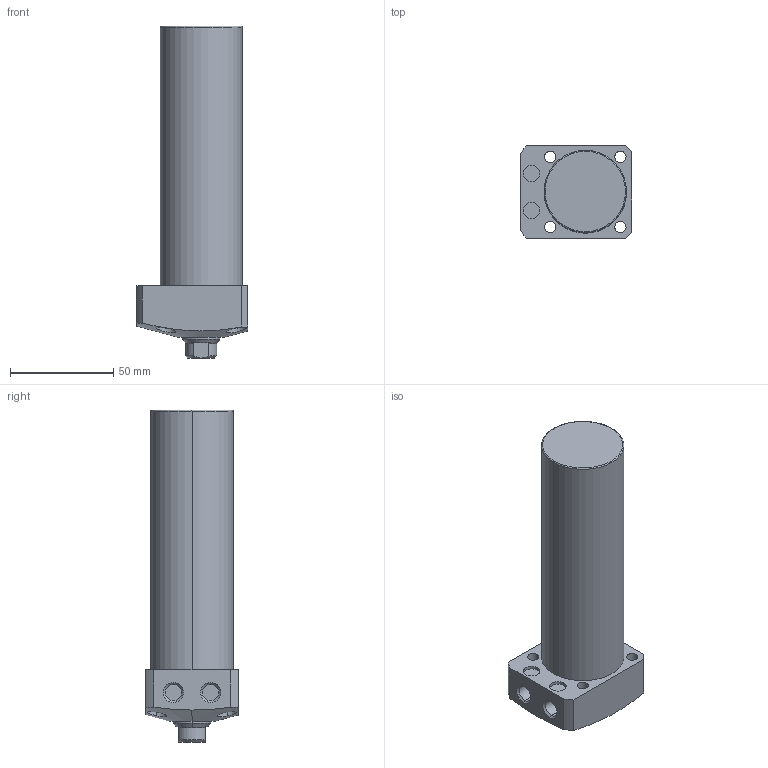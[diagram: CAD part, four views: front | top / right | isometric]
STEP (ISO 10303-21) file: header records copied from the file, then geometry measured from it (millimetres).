
FILE_DESCRIPTION (( 'STEP AP203' ), '1' );
FILE_NAME ('CLL-040CA-100.STEP', '2019-12-21T03:42:18', ( '' ), ( '' ), 'SwSTEP 2.0', 'SolidWorks 2015', '' );
FILE_SCHEMA (( 'CONFIG_CONTROL_DESIGN' ));
Length unit declared in the file: millimetre
Products named in the file (1): CLL-040CA-100
Bounding box: 54 x 45 x 161 mm (x, y, z)
Volume: 208774.6 mm3; surface area: 27935.9 mm2
Topology: 1 solids, 1 shells, 74 faces, 170 edges, 107 vertices
Faces by surface type: cylinder 35, plane 22, cone 15, torus 2
Entity records: 2505 total; most frequent: CARTESIAN_POINT 718, DIRECTION 374, ORIENTED_EDGE 336, EDGE_CURVE 168, AXIS2_PLACEMENT_3D 155, VERTEX_POINT 107, EDGE_LOOP 93, CIRCLE 80
